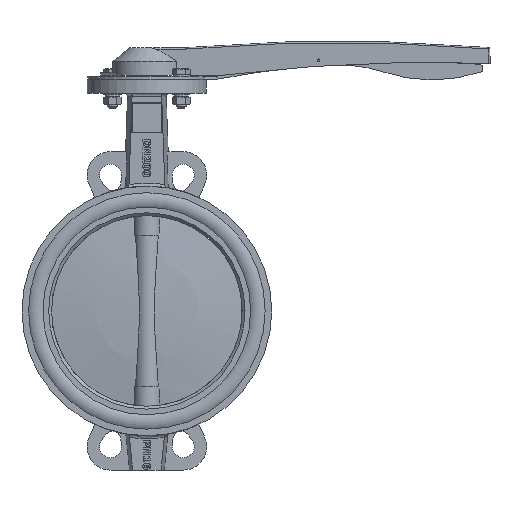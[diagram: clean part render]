
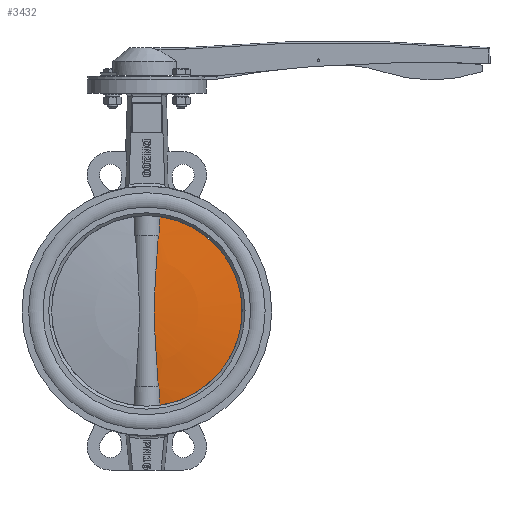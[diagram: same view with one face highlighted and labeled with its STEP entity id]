
A CAD part, left-side view. The second image highlights one B-rep face of the part: STEP entity #3432.
In plain terms, the highlighted spherical face has radius 707.775 mm.
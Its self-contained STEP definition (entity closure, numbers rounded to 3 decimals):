
#3432=ADVANCED_FACE('',(#7014),#7016,.T.);
#7014=FACE_BOUND('',#7015,.T.);
#7015=EDGE_LOOP('',(#11510,#11511,#11512,#11513,#11514,#11515));
#7016=SPHERICAL_SURFACE('',#7017,707.775);
#7017=AXIS2_PLACEMENT_3D('',#7018,#7019,#7020);
#7018=CARTESIAN_POINT('',(0.,-696.775,0.));
#7019=DIRECTION('',(0.,-1.,0.));
#7020=DIRECTION('',(0.,0.,1.));
#11510=ORIENTED_EDGE('',*,*,#13073,.F.);
#11511=ORIENTED_EDGE('',*,*,#13077,.T.);
#11512=ORIENTED_EDGE('',*,*,#13060,.F.);
#11513=ORIENTED_EDGE('',*,*,#13091,.F.);
#11514=ORIENTED_EDGE('',*,*,#13092,.T.);
#11515=ORIENTED_EDGE('',*,*,#13093,.F.);
#13060=EDGE_CURVE('',#15079,#15081,#15082,.T.);
#13073=EDGE_CURVE('',#15105,#15107,#15108,.F.);
#13077=EDGE_CURVE('',#15105,#15081,#15113,.T.);
#13091=EDGE_CURVE('',#15132,#15079,#15134,.T.);
#13092=EDGE_CURVE('',#15132,#15135,#15136,.T.);
#13093=EDGE_CURVE('',#15107,#15135,#15137,.T.);
#15079=VERTEX_POINT('',#21530);
#15081=VERTEX_POINT('',#21535);
#15082=B_SPLINE_CURVE_WITH_KNOTS('',3,
(#21536,#21537,#21538,#21539,#21540,#21541,#21542),
.UNSPECIFIED.,.F.,.F.,
(4,1,1,1,4),
(0.,0.237,0.478,0.733,1.),
.UNSPECIFIED.);
#15105=VERTEX_POINT('',#21733);
#15107=VERTEX_POINT('',#21753);
#15108=B_SPLINE_CURVE_WITH_KNOTS('',3,
(#21754,#21755,#21756,#21757,#21758,#21759,#21760),
.UNSPECIFIED.,.F.,.F.,
(4,1,1,1,4),
(0.,0.237,0.478,0.733,1.),
.UNSPECIFIED.);
#15113=CIRCLE('',#21777,100.);
#15132=VERTEX_POINT('',#21898);
#15134=CIRCLE('',#21903,703.337);
#15135=VERTEX_POINT('',#21907);
#15136=B_SPLINE_CURVE_WITH_KNOTS('',3,
(#21908,#21909,#21910,#21911,#21912,#21913,#21914,#21915,#21916,#21917,#21918,#21919,
#21920,#21921,#21922,#21923,#21924,#21925,#21926,#21927,#21928,#21929,#21930,#21931,
#21932),
.UNSPECIFIED.,.F.,.F.,
(4,1,1,1,1,1,1,1,1,1,1,1,1,1,1,1,1,1,1,1,1,1,4),
(0.,0.04,0.085,0.14,0.204,0.276,
0.339,0.391,0.431,0.471,0.5,
0.51,0.548,0.599,0.65,0.701,
0.741,0.782,0.825,0.867,0.911,
0.955,1.),
.UNSPECIFIED.);
#15137=CIRCLE('',#21933,703.337);
#21530=CARTESIAN_POINT('',(-12.601,6.449,79.14));
#21535=CARTESIAN_POINT('',(-13.607,3.9,99.07));
#21536=CARTESIAN_POINT('',(-12.601,6.449,79.14));
#21537=CARTESIAN_POINT('',(-12.692,6.269,80.718));
#21538=CARTESIAN_POINT('',(-12.873,5.897,83.898));
#21539=CARTESIAN_POINT('',(-13.134,5.294,88.772));
#21540=CARTESIAN_POINT('',(-13.383,4.631,93.838));
#21541=CARTESIAN_POINT('',(-13.535,4.151,97.301));
#21542=CARTESIAN_POINT('',(-13.607,3.9,99.07));
#21733=CARTESIAN_POINT('',(-13.607,3.9,-99.07));
#21753=CARTESIAN_POINT('',(-12.601,6.449,-79.14));
#21754=CARTESIAN_POINT('',(-12.601,6.449,-79.14));
#21755=CARTESIAN_POINT('',(-12.692,6.269,-80.718));
#21756=CARTESIAN_POINT('',(-12.873,5.897,-83.898));
#21757=CARTESIAN_POINT('',(-13.134,5.294,-88.772));
#21758=CARTESIAN_POINT('',(-13.383,4.631,-93.838));
#21759=CARTESIAN_POINT('',(-13.535,4.151,-97.301));
#21760=CARTESIAN_POINT('',(-13.607,3.9,-99.07));
#21777=AXIS2_PLACEMENT_3D('',#21778,#21779,#21780);
#21778=CARTESIAN_POINT('',(0.,3.9,0.));
#21779=DIRECTION('',(0.,1.,0.));
#21780=DIRECTION('',(-0.136,0.,-0.991));
#21898=CARTESIAN_POINT('',(-11.905,6.461,79.14));
#21903=AXIS2_PLACEMENT_3D('',#21904,#21905,#21906);
#21904=CARTESIAN_POINT('',(0.,-696.775,79.14));
#21905=DIRECTION('',(0.,0.,1.));
#21906=DIRECTION('',(-0.017,1.,0.));
#21907=CARTESIAN_POINT('',(-11.905,6.461,-79.14));
#21908=CARTESIAN_POINT('',(-11.905,6.461,79.14));
#21909=CARTESIAN_POINT('',(-11.776,6.7,77.036));
#21910=CARTESIAN_POINT('',(-11.49,7.189,72.546));
#21911=CARTESIAN_POINT('',(-10.999,7.923,65.161));
#21912=CARTESIAN_POINT('',(-10.413,8.683,56.535));
#21913=CARTESIAN_POINT('',(-9.741,9.43,46.515));
#21914=CARTESIAN_POINT('',(-9.095,10.049,36.062));
#21915=CARTESIAN_POINT('',(-8.583,10.484,26.173));
#21916=CARTESIAN_POINT('',(-8.26,10.737,17.958));
#21917=CARTESIAN_POINT('',(-8.072,10.878,10.97));
#21918=CARTESIAN_POINT('',(-7.983,10.943,5.209));
#21919=CARTESIAN_POINT('',(-7.964,10.957,1.046));
#21920=CARTESIAN_POINT('',(-7.97,10.952,-3.056));
#21921=CARTESIAN_POINT('',(-8.018,10.918,-8.279));
#21922=CARTESIAN_POINT('',(-8.185,10.794,-15.69));
#21923=CARTESIAN_POINT('',(-8.481,10.565,-23.779));
#21924=CARTESIAN_POINT('',(-8.844,10.264,-31.309));
#21925=CARTESIAN_POINT('',(-9.237,9.912,-38.308));
#21926=CARTESIAN_POINT('',(-9.638,9.524,-44.827));
#21927=CARTESIAN_POINT('',(-10.073,9.064,-51.484));
#21928=CARTESIAN_POINT('',(-10.531,8.529,-58.277));
#21929=CARTESIAN_POINT('',(-10.998,7.92,-65.159));
#21930=CARTESIAN_POINT('',(-11.463,7.233,-72.13));
#21931=CARTESIAN_POINT('',(-11.761,6.727,-76.796));
#21932=CARTESIAN_POINT('',(-11.905,6.461,-79.14));
#21933=AXIS2_PLACEMENT_3D('',#21934,#21935,#21936);
#21934=CARTESIAN_POINT('',(0.,-696.775,-79.14));
#21935=DIRECTION('',(0.,0.,-1.));
#21936=DIRECTION('',(-0.018,1.,0.));
